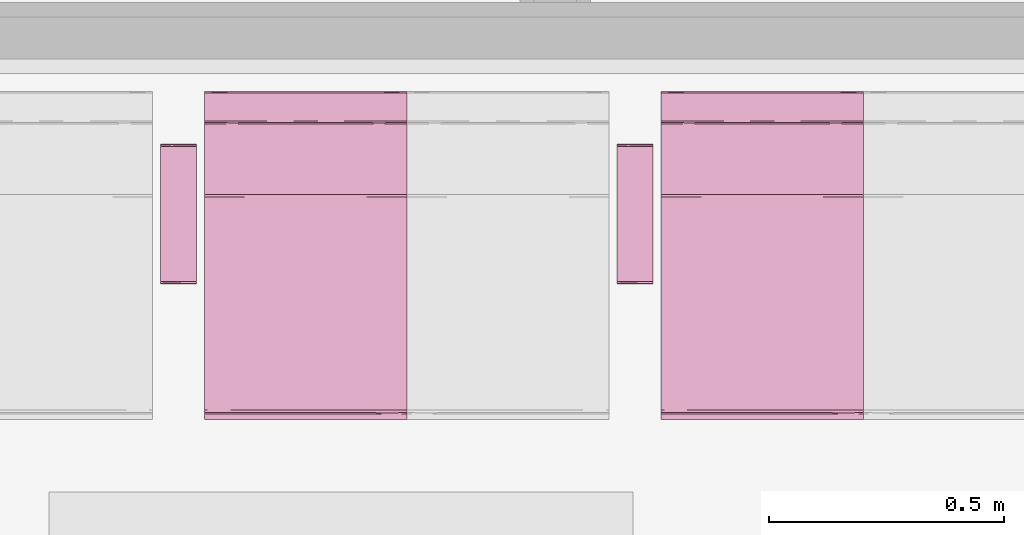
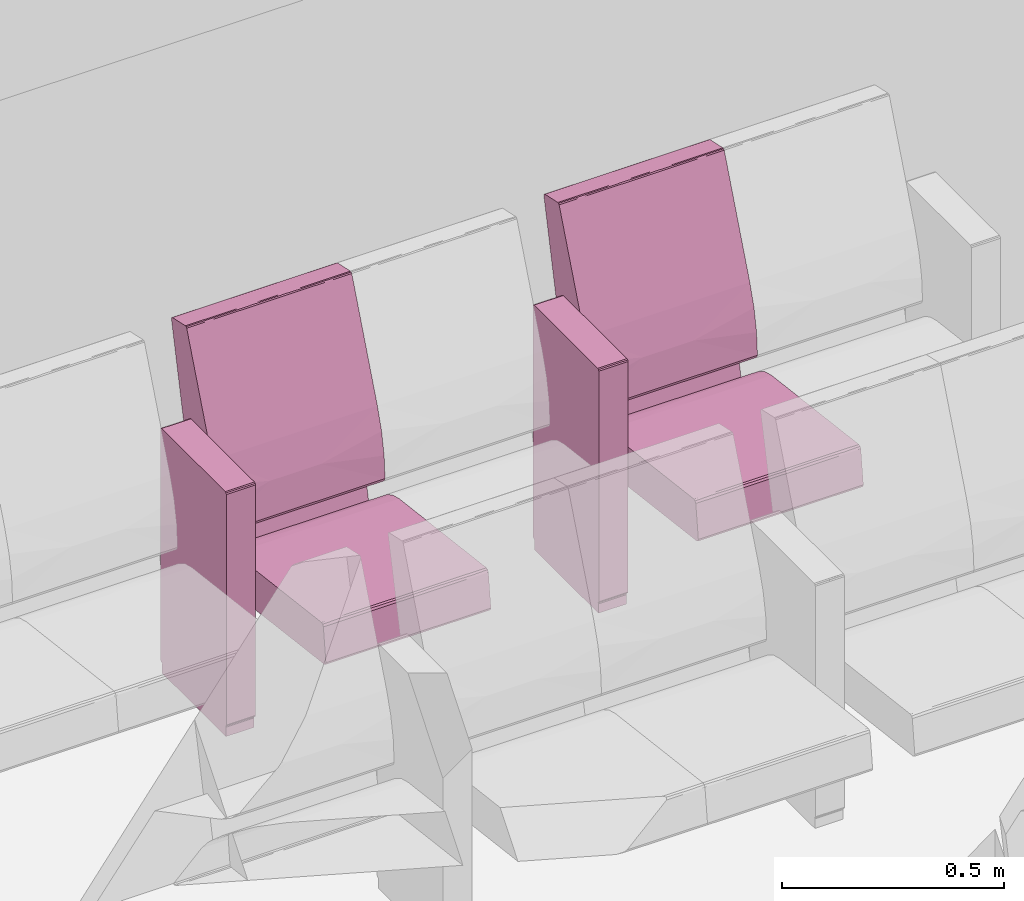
# One storey, part 140 of 155: 2 furnishings.
"""IFC2X3 building model written with IfcOpenShell, lengths in metres."""

from ifc_helpers import new_model, entity, si_unit, converted_unit, derived_unit, direction, frame, origin, place, context, subcontext, project, spatial, faceted_brep, source, transform, mapped, material, material_list, type_object, type_shapes, element, save


model = new_model("IFC2X3")

# Units and contexts
model_context = context("Model", 3, precision=1e-05, world=origin(), true_north=direction((6.12303176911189e-17, 1.0)))
body_context = subcontext(model_context, "Body", "Model", "MODEL_VIEW")
ifc_project = project(units=[si_unit("LENGTHUNIT", "METRE"), si_unit("AREAUNIT", "SQUARE_METRE"), si_unit("VOLUMEUNIT", "CUBIC_METRE"), converted_unit("PLANEANGLEUNIT", "DEGREE", entity("IfcRatioMeasure", 0.0174532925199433), si_unit("PLANEANGLEUNIT", "RADIAN"), dimensions=[0, 0, 0, 0, 0, 0, 0]), si_unit("MASSUNIT", "GRAM", prefix="KILO"), derived_unit("MASSDENSITYUNIT", [(si_unit("MASSUNIT", "GRAM", prefix="KILO"), 1), (si_unit("LENGTHUNIT", "METRE"), -3)]), si_unit("TIMEUNIT", "SECOND"), si_unit("FREQUENCYUNIT", "HERTZ"), si_unit("THERMODYNAMICTEMPERATUREUNIT", "DEGREE_CELSIUS"), derived_unit("THERMALTRANSMITTANCEUNIT", [(si_unit("MASSUNIT", "GRAM", prefix="KILO"), 1), (si_unit("THERMODYNAMICTEMPERATUREUNIT", "KELVIN"), -1), (si_unit("TIMEUNIT", "SECOND"), -3)]), derived_unit("VOLUMETRICFLOWRATEUNIT", [(si_unit("LENGTHUNIT", "METRE"), 3), (si_unit("TIMEUNIT", "SECOND"), -1)]), si_unit("ELECTRICCURRENTUNIT", "AMPERE"), si_unit("ELECTRICVOLTAGEUNIT", "VOLT"), si_unit("POWERUNIT", "WATT"), si_unit("FORCEUNIT", "NEWTON", prefix="KILO"), si_unit("ILLUMINANCEUNIT", "LUX"), si_unit("LUMINOUSFLUXUNIT", "LUMEN"), si_unit("LUMINOUSINTENSITYUNIT", "CANDELA"), derived_unit("USERDEFINED", [(si_unit("MASSUNIT", "GRAM", prefix="KILO"), -1), (si_unit("LENGTHUNIT", "METRE"), -2), (si_unit("TIMEUNIT", "SECOND"), 3), (si_unit("LUMINOUSFLUXUNIT", "LUMEN"), 1)]), derived_unit("LINEARVELOCITYUNIT", [(si_unit("LENGTHUNIT", "METRE"), 1), (si_unit("TIMEUNIT", "SECOND"), -1)]), si_unit("PRESSUREUNIT", "PASCAL"), derived_unit("USERDEFINED", [(si_unit("LENGTHUNIT", "METRE"), -2), (si_unit("MASSUNIT", "GRAM", prefix="KILO"), 1), (si_unit("TIMEUNIT", "SECOND"), -2)])], contexts=[model_context])

# Site, building, storey, space
site_placement = place(None, frame((26.9889013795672, -17.5624287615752, 0.0)))
site = spatial("IfcSite", under=ifc_project, at=site_placement, Name="Default", CompositionType="ELEMENT")
building_placement = place(site_placement, origin())
building = spatial("IfcBuilding", under=site, at=building_placement, Name="C. C. L. Monsenhor Antônio Sampaio", CompositionType="ELEMENT")
storey_placement = place(building_placement, frame((0.0, 0.0, 1.19999999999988)))
storey = spatial("IfcBuildingStorey", under=building, at=storey_placement, Name="Nível 1.2", CompositionType="ELEMENT", Elevation=1.19999999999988)
space_placement = place(storey_placement, origin())
space = spatial("IfcSpace", under=storey, at=space_placement, Name="94", CompositionType="ELEMENT", InteriorOrExteriorSpace="INTERNAL")

# Furnishings
ifc_material_1 = material(Name="V9 - V9 - Ecopelle_672_658")
ifc_material_2 = material(Name="V9 - V9 - RAL_9006_Grigio")
ifc_material_list_1 = material_list([ifc_material_1, ifc_material_2])
ifc_material_list_2 = material_list([ifc_material_1, ifc_material_2])
furniture_type = type_object("IfcFurnitureType", Name="Cadeira auditório", material=ifc_material_list_2)
shared_shape = source(origin(), body_context, "Body", "Brep", [
    faceted_brep([(0.405536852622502, 0.156348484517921, 0.339809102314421), (0.410560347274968, 0.131924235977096, 0.34246450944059), (0.405536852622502, 0.1075, 0.339809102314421), (0.405536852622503, 0.0537499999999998, 0.339809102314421), (0.410597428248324, 0.084060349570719, 0.342506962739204), (0.41079981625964, 0.0179166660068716, 0.342749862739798), (0.405536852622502, 0.215, 0.339809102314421), (0.410248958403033, 0.173608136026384, 0.342130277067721), (0.412515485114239, 0.185674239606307, 0.348529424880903), (0.412515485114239, 0.143333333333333, 0.348529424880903), (0.410560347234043, -0.131924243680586, 0.342464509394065), (0.405536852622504, -0.156348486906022, 0.33980910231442), (0.405536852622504, -0.1075, 0.33980910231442), (0.405536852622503, 0.0, 0.33980910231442), (0.41251548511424, 0.0, 0.348529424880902), (0.411170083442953, -0.0341365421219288, 0.343251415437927), (0.41059742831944, -0.0840603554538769, 0.342506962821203), (0.41251548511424, -0.143333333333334, 0.348529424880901), (0.412515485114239, 0.0358333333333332, 0.348529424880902), (0.412515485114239, 0.0716666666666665, 0.348529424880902), (0.405536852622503, -0.0537500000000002, 0.33980910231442), (0.412515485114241, -0.185674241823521, 0.348529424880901), (0.410799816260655, -0.215, 0.342749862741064), (0.410248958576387, -0.173608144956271, 0.342130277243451), (0.410799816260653, 0.215, 0.342749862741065), (0.412515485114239, 0.215, 0.348529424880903), (0.412515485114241, -0.215, 0.348529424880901), (0.41251548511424, -0.0716666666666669, 0.348529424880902), (0.405536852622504, -0.215, 0.33980910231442), (-0.0557900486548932, -0.215, 0.28268145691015), (-0.055790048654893, -0.168631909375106, 0.282681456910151), (-0.0557900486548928, -0.138065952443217, 0.282681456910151), (-0.0557900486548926, -0.107499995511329, 0.282681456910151), (-0.0557900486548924, -0.0806249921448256, 0.282681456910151), (-0.0557900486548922, -0.0537499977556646, 0.282681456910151), (-0.0557900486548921, -0.0268750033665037, 0.282681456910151), (-0.0557900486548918, 0.0, 0.28268145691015), (-0.0557900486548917, 0.0268749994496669, 0.282681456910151), (-0.0557900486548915, 0.0537499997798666, 0.282681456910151), (-0.0557900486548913, 0.0806250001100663, 0.282681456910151), (-0.0557900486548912, 0.107499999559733, 0.282681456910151), (-0.055790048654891, 0.134374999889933, 0.282681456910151), (-0.0557900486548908, 0.161250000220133, 0.282681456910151), (-0.0557900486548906, 0.1881249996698, 0.282681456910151), (-0.0557900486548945, 0.215, 0.28268145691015), (-0.0594787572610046, -0.0152829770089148, 0.283700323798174), (-0.0613666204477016, 0.0, 0.287029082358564), (-0.0594787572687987, 0.0179017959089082, 0.283700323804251), (-0.0613666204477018, 0.191815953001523, 0.287029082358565), (-0.0613666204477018, 0.215, 0.287029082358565), (-0.0594787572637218, 0.215, 0.283700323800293), (-0.0593340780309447, 0.0671874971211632, 0.283591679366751), (-0.0613666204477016, 0.030565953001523, 0.287029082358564), (-0.0594787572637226, -0.215, 0.283700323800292), (-0.0593337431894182, -0.184174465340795, 0.283591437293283), (-0.0613666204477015, -0.122263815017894, 0.287029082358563), (-0.0613666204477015, -0.0916978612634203, 0.287029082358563), (-0.0613666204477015, -0.0611319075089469, 0.287029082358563), (-0.0593023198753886, -0.0940625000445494, 0.283568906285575), (-0.059382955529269, 0.118123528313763, 0.28362747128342), (-0.0613666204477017, 0.122263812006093, 0.287029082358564), (-0.0597338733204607, 0.147039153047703, 0.283913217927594), (-0.0613666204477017, 0.168631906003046, 0.287029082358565), (-0.0592501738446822, 0.180223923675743, 0.283532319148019), (-0.0588783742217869, 0.0926899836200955, 0.283298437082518), (-0.0613666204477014, -0.215, 0.287029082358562), (-0.0613666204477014, -0.168631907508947, 0.287029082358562), (-0.0592576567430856, -0.123736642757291, 0.283537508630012), (-0.0594787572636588, -0.153348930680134, 0.283700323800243), (-0.0613666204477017, 0.0916978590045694, 0.287029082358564), (-0.0613666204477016, -0.0305659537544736, 0.287029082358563), (-0.059645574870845, -0.045848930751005, 0.283836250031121), (-0.0613666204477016, 0.0611319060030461, 0.287029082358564), (-0.069340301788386, -0.215, 0.351419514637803), (-0.0693403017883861, -0.143333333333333, 0.351419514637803), (-0.0693403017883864, -0.0716666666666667, 0.351419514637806), (-0.0693403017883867, 0.0, 0.351419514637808), (-0.069340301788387, 0.0716666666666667, 0.351419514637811), (-0.0693403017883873, 0.143333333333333, 0.351419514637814), (-0.0693403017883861, 0.215, 0.351419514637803), (-0.0597085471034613, 0.0, 0.37476954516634), (-0.0645543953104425, 0.112272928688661, 0.369803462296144), (-0.0653387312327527, 0.0126787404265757, 0.368680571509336), (-0.0681665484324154, -0.0888707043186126, 0.36292533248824), (-0.0655136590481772, -0.10440004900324, 0.368411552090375), (-0.0694879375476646, 0.0590582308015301, 0.356377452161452), (-0.0695056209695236, -0.125492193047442, 0.356093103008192), (-0.0597085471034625, -0.110316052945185, 0.374769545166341), (-0.0690003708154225, 0.132942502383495, 0.359900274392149), (-0.0672851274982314, 0.108066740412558, 0.365148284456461), (-0.0676206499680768, 0.215, 0.364371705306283), (-0.0686241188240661, 0.215, 0.356813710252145), (-0.0686241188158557, -0.214999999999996, 0.356813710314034), (-0.0686999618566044, 0.0358333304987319, 0.36116674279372), (-0.0694502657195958, -0.0358333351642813, 0.356863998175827), (-0.0676206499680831, -0.214999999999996, 0.364371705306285), (-0.0636645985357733, -0.214999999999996, 0.369570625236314), (-0.0597085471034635, -0.214999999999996, 0.374769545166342), (-0.0597085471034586, 0.215, 0.374769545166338), (-0.0636645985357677, 0.215, 0.36957062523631), (-0.0597085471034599, 0.110316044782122, 0.374769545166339), (-0.0324117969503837, 0.215, 0.390639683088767), (-0.0324117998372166, 0.0436847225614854, 0.39063968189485), (-0.0018793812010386, 0.215, 0.398686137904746), (-0.041847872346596, -0.0856576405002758, 0.386239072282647), (-0.0324117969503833, -0.215, 0.390639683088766), (-0.00187938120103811, -0.215, 0.398686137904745), (-0.00187938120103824, -0.102488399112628, 0.398686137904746), (-0.0219042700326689, -0.0570631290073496, 0.394412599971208), (-0.00187938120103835, 0.0, 0.398686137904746), (0.392202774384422, 0.215, 0.447486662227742), (0.392202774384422, -0.215, 0.447486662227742), (0.392202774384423, -0.156349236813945, 0.447486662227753), (0.392202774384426, -0.107499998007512, 0.447486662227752), (0.392202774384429, -0.0537500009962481, 0.44748666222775), (0.392202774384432, 0.0, 0.447486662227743), (0.392202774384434, 0.0537499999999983, 0.447486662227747), (0.392202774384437, 0.107499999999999, 0.447486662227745), (0.392202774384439, 0.156349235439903, 0.447486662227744), (0.398104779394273, -0.131924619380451, 0.445856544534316), (0.401125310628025, -0.0976984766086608, 0.440530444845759), (0.397860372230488, -0.0827732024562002, 0.446039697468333), (0.401125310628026, -0.215000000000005, 0.440530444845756), (0.401125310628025, -0.156349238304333, 0.440530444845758), (0.397373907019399, -0.173462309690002, 0.446363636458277), (0.398104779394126, -0.215000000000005, 0.445856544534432), (0.397860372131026, 0.0827731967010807, 0.446039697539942), (0.398104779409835, 0.131924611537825, 0.445856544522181), (0.398104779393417, -0.0237489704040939, 0.445856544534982), (0.398104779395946, 0.0268749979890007, 0.445856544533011), (0.401125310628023, 0.0488492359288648, 0.440530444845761), (0.401125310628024, -0.0488492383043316, 0.440530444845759), (0.398774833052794, 0.173462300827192, 0.445271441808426), (0.401125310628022, 0.097698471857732, 0.440530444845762), (0.401125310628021, 0.215, 0.440530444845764), (0.39810477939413, 0.215, 0.445856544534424), (0.401125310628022, 0.156349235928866, 0.440530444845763), (0.401125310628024, 0.0, 0.44053044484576)], [[[0, 1, 2]], [[3, 4, 5]], [[6, 7, 0]], [[7, 8, 9]], [[10, 11, 12]], [[3, 5, 13]], [[14, 15, 5]], [[16, 17, 10]], [[9, 1, 7]], [[18, 5, 4]], [[4, 9, 19, 18]], [[9, 4, 1]], [[2, 1, 4]], [[13, 15, 20]], [[21, 22, 23]], [[5, 18, 14]], [[24, 25, 8]], [[22, 21, 26]], [[24, 7, 6]], [[23, 11, 10]], [[20, 15, 16]], [[3, 2, 4]], [[14, 27, 15]], [[5, 15, 13]], [[27, 17, 16]], [[10, 12, 16]], [[21, 23, 17]], [[20, 16, 12]], [[15, 27, 16]], [[7, 1, 0]], [[28, 11, 23]], [[8, 7, 24]], [[23, 10, 17]], [[28, 23, 22]], [[28, 29, 30, 31, 32, 33, 34, 35, 36, 37, 38, 39, 40, 41, 42, 43, 44, 6, 0, 2, 3, 13, 20, 12, 11]], [[45, 46, 47]], [[48, 49, 50]], [[51, 47, 52]], [[29, 53, 54]], [[55, 56, 57, 58]], [[59, 60, 61]], [[61, 62, 63]], [[51, 64, 39]], [[65, 66, 54]], [[31, 67, 32]], [[45, 47, 38, 37, 36, 35]], [[68, 31, 30]], [[43, 50, 44]], [[63, 42, 61]], [[48, 50, 63]], [[64, 69, 59]], [[68, 54, 66]], [[63, 62, 48]], [[50, 43, 63]], [[67, 55, 58]], [[61, 42, 41]], [[45, 70, 46]], [[55, 68, 66]], [[71, 33, 58]], [[71, 57, 70]], [[41, 40, 59]], [[60, 62, 61]], [[71, 35, 34, 33]], [[35, 71, 45]], [[47, 46, 52]], [[45, 71, 70]], [[58, 57, 71]], [[32, 58, 33]], [[31, 68, 67]], [[54, 68, 30]], [[29, 54, 30]], [[54, 53, 65]], [[55, 67, 68]], [[32, 67, 58]], [[51, 52, 72, 69]], [[43, 42, 63]], [[41, 59, 61]], [[47, 51, 38]], [[40, 39, 64]], [[38, 51, 39]], [[69, 60, 59]], [[69, 64, 51]], [[40, 64, 59]], [[65, 73, 74, 75, 76, 77, 78, 79, 49, 48, 62, 60, 69, 72, 52, 46, 70, 57, 56, 55, 66]], [[80, 81, 82]], [[82, 83, 84]], [[78, 77, 76, 85]], [[86, 75, 74]], [[84, 80, 82]], [[80, 84, 87]], [[88, 89, 90]], [[91, 79, 78]], [[74, 73, 92]], [[85, 88, 91]], [[81, 89, 82]], [[93, 94, 83]], [[94, 86, 83]], [[85, 76, 94]], [[92, 86, 74]], [[85, 94, 93]], [[83, 92, 95]], [[75, 94, 76]], [[93, 83, 82]], [[95, 96, 84]], [[88, 85, 93]], [[96, 97, 87]], [[98, 99, 100]], [[78, 85, 91]], [[89, 88, 93]], [[90, 91, 88]], [[93, 82, 89]], [[81, 99, 89]], [[99, 90, 89]], [[100, 81, 80]], [[100, 99, 81]], [[83, 86, 92]], [[75, 86, 94]], [[95, 84, 83]], [[87, 84, 96]], [[101, 102, 103]], [[104, 80, 87, 97]], [[105, 106, 107]], [[107, 108, 105]], [[103, 102, 109]], [[104, 102, 80]], [[104, 108, 102]], [[98, 102, 101]], [[105, 104, 97]], [[105, 108, 104]], [[102, 98, 100, 80]], [[109, 108, 107]], [[109, 102, 108]], [[110, 103, 109, 107, 106, 111, 112, 113, 114, 115, 116, 117, 118]], [[119, 120, 121]], [[122, 123, 124]], [[111, 125, 124]], [[117, 116, 126]], [[124, 119, 112]], [[113, 112, 119]], [[127, 118, 117]], [[115, 114, 128, 129, 116]], [[129, 130, 126]], [[121, 131, 128]], [[127, 132, 118]], [[110, 118, 132]], [[127, 126, 133]], [[119, 124, 123]], [[134, 135, 132]], [[136, 132, 127]], [[120, 119, 123]], [[133, 136, 127]], [[137, 130, 129, 128, 131]], [[126, 127, 117]], [[130, 133, 126]], [[113, 119, 121]], [[129, 126, 116]], [[128, 114, 121]], [[114, 113, 121]], [[131, 121, 120]], [[111, 124, 112]], [[124, 125, 122]], [[134, 132, 136]], [[132, 135, 110]], [[19, 9, 8, 25, 134, 136, 133, 130, 137, 131, 120, 123, 122, 26, 21, 17, 27, 14, 18]], [[65, 53, 29, 28, 22, 26, 122, 125, 111, 106, 105, 97, 96, 95, 92, 73]], [[98, 101, 103, 110, 135, 134, 25, 24, 6, 44, 50, 49, 79, 91, 90, 99]]]),
    faceted_brep([(0.123144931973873, -0.283972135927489, 0.673627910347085), (0.12334838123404, -0.259944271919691, 0.6734355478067), (0.119812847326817, -0.27, 0.674900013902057), (0.124812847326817, -0.27, 0.669900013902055), (0.12334838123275, -0.232, 0.673435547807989), (0.119812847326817, -0.232, 0.674900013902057), (0.124812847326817, -0.308, 0.669900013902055), (0.119812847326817, -0.308, 0.674900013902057), (0.124812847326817, -0.249888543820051, 0.669900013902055), (0.124812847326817, -0.232, 0.669900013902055), (0.12334838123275, -0.308, 0.673435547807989), (0.124812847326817, -0.27, 0.035), (0.124812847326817, -0.232, 0.035), (0.124812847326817, -0.308, 0.0350000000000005), (0.123540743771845, -0.283972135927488, 0.0316679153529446), (0.12334838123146, -0.25994427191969, 0.0314644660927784), (0.119812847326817, -0.27, 0.0300000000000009), (0.12334838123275, -0.232, 0.0314644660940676), (0.119812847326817, -0.308, 0.0300000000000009), (0.119812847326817, -0.249888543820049, 0.030000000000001), (0.119812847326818, -0.232, 0.030000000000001), (0.123348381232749, -0.308, 0.0314644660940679), (-0.167179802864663, -0.308, 0.0300000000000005), (-0.167179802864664, -0.27, 0.0300000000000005), (-0.167179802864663, -0.232, 0.0300000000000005), (-0.17051188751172, -0.283972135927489, 0.0312721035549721), (-0.170715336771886, -0.25994427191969, 0.0314644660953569), (-0.172179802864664, -0.27, 0.0350000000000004), (-0.170715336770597, -0.232, 0.0314644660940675), (-0.172179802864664, -0.308, 0.0350000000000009), (-0.172179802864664, -0.24988854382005, 0.0350000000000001), (-0.172179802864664, -0.232, 0.0349999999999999), (-0.170715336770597, -0.308, 0.0314644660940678), (-0.172179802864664, -0.308, 0.669900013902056), (-0.172179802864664, -0.27, 0.669900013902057), (-0.172179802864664, -0.232, 0.669900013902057), (-0.170907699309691, -0.283972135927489, 0.673232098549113), (-0.170715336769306, -0.259944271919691, 0.673435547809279), (-0.167179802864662, -0.27, 0.674900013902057), (-0.170715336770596, -0.232, 0.67343554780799), (-0.167179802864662, -0.308, 0.674900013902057), (-0.167179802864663, -0.249888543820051, 0.674900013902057), (-0.167179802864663, -0.232, 0.674900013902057), (-0.170715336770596, -0.308, 0.67343554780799)], [[[0, 1, 2]], [[1, 0, 3]], [[1, 4, 5, 2]], [[6, 3, 0]], [[7, 0, 2]], [[4, 1, 3, 8, 9]], [[10, 0, 7]], [[0, 10, 6]], [[11, 12, 9, 8, 3, 6, 13]], [[14, 15, 11]], [[15, 14, 16]], [[15, 17, 12, 11]], [[18, 16, 14]], [[13, 14, 11]], [[17, 15, 16, 19, 20]], [[21, 14, 13]], [[14, 21, 18]], [[18, 22, 23, 24, 20, 19, 16]], [[25, 26, 23]], [[26, 25, 27]], [[26, 28, 24, 23]], [[29, 27, 25]], [[22, 25, 23]], [[28, 26, 27, 30, 31]], [[32, 25, 22]], [[25, 32, 29]], [[27, 29, 33, 34, 35, 31, 30]], [[36, 37, 34]], [[37, 36, 38]], [[37, 39, 35, 34]], [[40, 38, 36]], [[33, 36, 34]], [[39, 37, 38, 41, 42]], [[43, 36, 33]], [[36, 43, 40]], [[40, 7, 2, 5, 42, 41, 38]], [[35, 39, 42, 5, 4, 9, 12, 17, 20, 24, 28, 31]], [[29, 32, 22, 18, 21, 13, 6, 10, 7, 40, 43, 33]]]),
    faceted_brep([(-0.0695672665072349, 0.215, 0.476508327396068), (-0.074405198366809, 0.0524423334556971, 0.506888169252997), (-0.0655618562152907, 0.215, 0.415143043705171), (-0.0744051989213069, -0.0780075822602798, 0.506888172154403), (-0.0655618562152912, 0.0, 0.415143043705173), (-0.0655618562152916, -0.215, 0.415143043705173), (-0.0655618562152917, -0.1075, 0.415143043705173), (-0.0655618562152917, 0.1075, 0.415143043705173), (-0.0695672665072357, -0.215, 0.476508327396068), (-0.081111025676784, -0.215, 0.536911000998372), (-0.0811110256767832, 0.215, 0.536911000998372), (-0.100016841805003, 0.215, 0.595428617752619), (-0.100016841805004, 0.0, 0.595428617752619), (-0.100016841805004, -0.215, 0.595428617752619), (-0.0698317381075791, 0.0358333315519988, 0.406528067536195), (-0.0792851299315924, 0.0, 0.404772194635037), (-0.0792851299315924, 0.0716666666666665, 0.404772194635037), (-0.0792851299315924, -0.215, 0.404772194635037), (-0.0792851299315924, -0.143333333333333, 0.404772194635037), (-0.0698317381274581, -0.215, 0.406528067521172), (-0.0792851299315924, 0.143333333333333, 0.404772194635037), (-0.0792851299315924, 0.215, 0.404772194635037), (-0.0698317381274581, 0.215, 0.406528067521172), (-0.0694171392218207, 0.140338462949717, 0.406857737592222), (-0.0708115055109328, -0.0356393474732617, 0.405868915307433), (-0.0703502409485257, -0.107500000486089, 0.406159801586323), (-0.0792851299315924, -0.0716666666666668, 0.404772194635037), (-0.163837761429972, -0.215, 0.420611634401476), (-0.163837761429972, 0.215, 0.420611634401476), (-0.123612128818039, 0.215, 0.235917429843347), (-0.123612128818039, -0.215, 0.235917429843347), (-0.142059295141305, -0.215, 0.231899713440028), (-0.142059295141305, 0.215, 0.231899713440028), (-0.235388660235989, -0.215, 0.652619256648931), (-0.235388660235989, 0.215, 0.652619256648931), (-0.28428001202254, -0.215, 0.873004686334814), (-0.284280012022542, -0.191295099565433, 0.873004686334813), (-0.284280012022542, -0.161249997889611, 0.873004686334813), (-0.284280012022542, -0.134374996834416, 0.873004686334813), (-0.284280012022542, -0.107499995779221, 0.873004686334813), (-0.284280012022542, -0.0806249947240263, 0.873004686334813), (-0.284280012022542, -0.0537499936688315, 0.873004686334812), (-0.284280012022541, -0.0268749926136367, 0.873004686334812), (-0.28428001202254, 0.0, 0.873004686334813), (-0.284280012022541, 0.0268749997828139, 0.873004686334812), (-0.284280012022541, 0.0537500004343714, 0.873004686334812), (-0.284280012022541, 0.0806250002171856, 0.873004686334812), (-0.284280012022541, 0.1075, 0.873004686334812), (-0.284280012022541, 0.134374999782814, 0.873004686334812), (-0.28428001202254, 0.161249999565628, 0.873004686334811), (-0.28428001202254, 0.191295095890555, 0.873004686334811), (-0.28428001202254, 0.215, 0.873004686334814), (-0.283746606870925, 0.0872244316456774, 0.876674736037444), (-0.283504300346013, 0.0569644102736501, 0.877068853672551), (-0.283567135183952, -0.15546176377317, 0.876973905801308), (-0.283641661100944, -0.12093750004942, 0.87685511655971), (-0.283567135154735, 0.155461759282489, 0.876973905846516), (-0.28330409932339, 0.185293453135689, 0.877344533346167), (-0.283641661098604, 0.0179166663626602, 0.876855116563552), (-0.283641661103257, -0.0136463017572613, 0.876855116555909), (-0.280514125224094, -0.0358333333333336, 0.879190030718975), (-0.280514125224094, 0.0, 0.879190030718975), (-0.280514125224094, 0.0358333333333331, 0.879190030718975), (-0.280514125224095, -0.143333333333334, 0.879190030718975), (-0.280514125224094, -0.1075, 0.879190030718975), (-0.280514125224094, -0.071666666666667, 0.879190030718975), (-0.283746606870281, -0.0872244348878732, 0.876674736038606), (-0.280514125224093, 0.0716666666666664, 0.879190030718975), (-0.280514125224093, 0.1075, 0.879190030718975), (-0.283641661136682, 0.120937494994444, 0.876855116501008), (-0.280514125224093, 0.143333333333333, 0.879190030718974), (-0.283641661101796, 0.215, 0.876855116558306), (-0.283641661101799, -0.215, 0.876855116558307), (-0.283304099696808, -0.18529345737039, 0.877344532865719), (-0.280514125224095, -0.167590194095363, 0.879190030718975), (-0.280514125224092, 0.215, 0.879190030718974), (-0.280514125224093, 0.167590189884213, 0.879190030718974), (-0.280514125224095, -0.215, 0.879190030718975), (-0.283504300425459, -0.0569644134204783, 0.8770688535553), (-0.22111253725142, 0.215, 0.892176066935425), (-0.22111253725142, -0.215, 0.892176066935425), (-0.221112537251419, -0.191815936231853, 0.892176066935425), (-0.221112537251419, -0.161250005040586, 0.892176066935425), (-0.221112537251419, -0.134375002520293, 0.892176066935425), (-0.221112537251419, -0.1075, 0.892176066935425), (-0.221112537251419, -0.080624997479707, 0.892176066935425), (-0.221112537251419, -0.0537499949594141, 0.892176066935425), (-0.221112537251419, -0.0268750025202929, 0.892176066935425), (-0.221112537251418, 0.0, 0.892176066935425), (-0.221112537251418, 0.0268750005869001, 0.892176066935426), (-0.221112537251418, 0.05375000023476, 0.892176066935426), (-0.221112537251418, 0.0806249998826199, 0.892176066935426), (-0.221112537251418, 0.10749999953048, 0.892176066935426), (-0.221112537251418, 0.13437499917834, 0.892176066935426), (-0.221112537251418, 0.16124999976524, 0.892176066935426), (-0.221112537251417, 0.19181594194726, 0.892176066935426), (-0.215419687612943, 0.0, 0.889191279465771), (-0.215419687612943, 0.0358333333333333, 0.889191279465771), (-0.217722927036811, 0.0162353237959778, 0.891719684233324), (-0.217722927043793, -0.0134375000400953, 0.891719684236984), (-0.215419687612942, -0.191815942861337, 0.889191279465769), (-0.215419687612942, -0.168631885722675, 0.889191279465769), (-0.217722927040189, -0.182482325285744, 0.891719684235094), (-0.217722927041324, -0.215, 0.891719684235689), (-0.215419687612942, -0.215, 0.889191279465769), (-0.215419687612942, -0.1075, 0.88919127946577), (-0.215419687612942, -0.0716666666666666, 0.88919127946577), (-0.217722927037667, -0.0912646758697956, 0.891719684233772), (-0.217722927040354, -0.120937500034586, 0.89171968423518), (-0.215419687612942, -0.143333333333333, 0.88919127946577), (-0.215419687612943, 0.191815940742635, 0.889191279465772), (-0.215419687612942, 0.215, 0.889191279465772), (-0.217722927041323, 0.215, 0.89171968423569), (-0.217722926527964, 0.190103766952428, 0.891719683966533), (-0.217722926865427, 0.0912646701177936, 0.891719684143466), (-0.217816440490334, 0.0647800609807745, 0.891767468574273), (-0.215419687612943, 0.0716666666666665, 0.889191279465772), (-0.217816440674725, -0.0647800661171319, 0.891767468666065), (-0.2179983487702, -0.0390825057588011, 0.891853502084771), (-0.217558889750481, -0.155982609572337, 0.891629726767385), (-0.217722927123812, 0.120937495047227, 0.891719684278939), (-0.215419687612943, 0.16863188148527, 0.889191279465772), (-0.215419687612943, 0.143333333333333, 0.889191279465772), (-0.217558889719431, 0.15598260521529, 0.891629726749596), (-0.215419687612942, -0.0358333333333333, 0.889191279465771), (-0.215419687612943, 0.1075, 0.889191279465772), (-0.218257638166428, 0.0404491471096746, 0.891961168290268)], [[[0, 1, 2]], [[1, 3, 4]], [[3, 5, 6, 4]], [[1, 4, 7, 2]], [[5, 3, 8]], [[8, 3, 9]], [[0, 10, 1]], [[11, 12, 1]], [[3, 13, 9]], [[3, 12, 13]], [[11, 1, 10]], [[3, 1, 12]], [[14, 15, 16]], [[17, 18, 19]], [[20, 21, 22]], [[2, 23, 22]], [[14, 7, 4]], [[14, 24, 15]], [[6, 25, 24]], [[22, 23, 20]], [[14, 23, 7]], [[19, 6, 5]], [[4, 24, 14]], [[16, 23, 14]], [[16, 20, 23]], [[26, 25, 18]], [[25, 19, 18]], [[15, 24, 26]], [[23, 2, 7]], [[19, 25, 6]], [[26, 24, 25]], [[6, 24, 4]], [[15, 26, 18, 17, 27, 28, 21, 20, 16]], [[29, 28, 27, 30]], [[30, 31, 32, 29]], [[32, 31, 33, 34]], [[34, 33, 35, 36, 37, 38, 39, 40, 41, 42, 43, 44, 45, 46, 47, 48, 49, 50, 51]], [[52, 46, 53]], [[38, 54, 55]], [[56, 57, 49]], [[58, 59, 60, 61, 62]], [[63, 64, 55]], [[64, 65, 66]], [[52, 67, 68]], [[69, 70, 56]], [[49, 57, 50]], [[38, 55, 39]], [[71, 51, 50]], [[36, 35, 72]], [[59, 58, 44, 43, 42]], [[73, 74, 54]], [[55, 66, 39]], [[75, 57, 76]], [[77, 74, 73]], [[69, 52, 68]], [[37, 36, 73]], [[54, 74, 63]], [[56, 76, 57]], [[36, 72, 73]], [[75, 71, 57]], [[70, 76, 56]], [[52, 69, 47]], [[48, 47, 69]], [[42, 78, 59]], [[66, 55, 64]], [[50, 57, 71]], [[73, 54, 37]], [[77, 73, 72]], [[48, 69, 56]], [[56, 49, 48]], [[69, 68, 70]], [[53, 46, 45, 44]], [[58, 62, 53]], [[53, 44, 58]], [[38, 37, 54]], [[63, 55, 54]], [[78, 66, 65]], [[78, 40, 66]], [[67, 52, 53]], [[78, 42, 41, 40]], [[65, 60, 78]], [[59, 78, 60]], [[52, 47, 46]], [[40, 39, 66]], [[62, 67, 53]], [[79, 75, 76, 70, 68, 67, 62, 61, 60, 65, 64, 63, 74, 77, 80, 81, 82, 83, 84, 85, 86, 87, 88, 89, 90, 91, 92, 93, 94, 95]], [[96, 97, 98, 99]], [[100, 101, 102, 103, 104]], [[105, 106, 107, 108, 109]], [[110, 111, 112]], [[113, 112, 95]], [[114, 115, 116]], [[117, 118, 86]], [[82, 119, 83]], [[102, 82, 81, 80, 103]], [[112, 79, 95]], [[108, 107, 85, 84, 83]], [[88, 87, 99, 98, 89]], [[119, 101, 109]], [[93, 92, 120]], [[117, 85, 107]], [[113, 121, 110]], [[122, 121, 123]], [[113, 94, 123]], [[124, 99, 118]], [[122, 123, 120]], [[108, 119, 109]], [[113, 110, 112]], [[102, 101, 119]], [[119, 108, 83]], [[114, 125, 120]], [[123, 94, 93]], [[93, 120, 123]], [[114, 120, 92]], [[122, 120, 125]], [[117, 107, 106]], [[114, 92, 91]], [[116, 125, 114]], [[115, 91, 90]], [[85, 117, 86]], [[126, 89, 98]], [[117, 106, 124]], [[118, 99, 87]], [[124, 96, 99]], [[97, 116, 115]], [[97, 115, 126]], [[86, 118, 87]], [[124, 118, 117]], [[91, 115, 114]], [[115, 90, 126]], [[89, 126, 90]], [[97, 126, 98]], [[82, 102, 119]], [[94, 113, 95]], [[121, 113, 123]], [[11, 111, 110, 121, 122, 125, 116, 97, 96, 124, 106, 105, 109, 101, 100, 104, 13, 12]], [[27, 17, 19, 5, 8, 9, 13, 104, 103, 80, 77, 72, 35, 33, 31, 30]], [[51, 71, 75, 79, 112, 111, 11, 10, 0, 2, 22, 21, 28, 29, 32, 34]]]),
    faceted_brep([(0.120312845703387, -0.2335, 0.0), (0.120312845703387, -0.2335, 0.0260000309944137), (0.120312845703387, -0.249500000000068, 0.0260000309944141), (0.120312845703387, -0.27, 0.0260000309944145), (0.120312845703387, -0.3065, 0.0260000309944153), (0.120312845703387, -0.3065, 0.0), (-0.167687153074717, -0.3065, 0.0), (-0.167687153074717, -0.2335, 0.0), (-0.167687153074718, -0.27, 0.0260000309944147), (-0.167687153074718, -0.2335, 0.0260000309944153), (-0.167687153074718, -0.3065, 0.0260000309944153), (-0.166521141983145, -0.233500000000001, 0.0288228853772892), (-0.166521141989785, -0.257382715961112, 0.0288228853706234), (-0.163702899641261, -0.233500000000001, 0.0300000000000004), (-0.163702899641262, -0.3065, 0.0300000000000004), (-0.16652114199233, -0.279986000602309, 0.0288228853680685), (-0.166521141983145, -0.3065, 0.0288228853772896), (-0.163702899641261, -0.27, 0.0300000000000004), (0.116297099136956, -0.3065, 0.0300000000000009), (0.116297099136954, -0.269999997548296, 0.0300000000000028), (0.116297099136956, -0.2335, 0.0300000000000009), (0.119033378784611, -0.283124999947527, 0.0289323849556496), (0.1191357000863, -0.2335, 0.0288340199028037), (0.119135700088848, -0.259750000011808, 0.0288340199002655), (0.119135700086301, -0.3065, 0.0288340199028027)], [[[0, 1, 2, 3, 4, 5]], [[0, 5, 6, 7]], [[8, 9, 7, 6, 10]], [[11, 12, 13]], [[14, 15, 16]], [[15, 14, 17, 13, 12]], [[9, 8, 12, 11]], [[16, 15, 10]], [[8, 10, 15, 12]], [[14, 18, 19, 20, 13, 17]], [[21, 4, 3]], [[22, 20, 19, 23]], [[3, 2, 1, 22, 23]], [[24, 21, 18]], [[21, 3, 23]], [[18, 21, 19]], [[21, 24, 4]], [[21, 23, 19]], [[6, 5, 4, 24, 18, 14, 16, 10]], [[7, 9, 11, 13, 20, 22, 1, 0]]]),
])
type_shapes(furniture_type, [shared_shape])
furnishing_1_placement = place(space_placement, frame((-8.06594929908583, -10.4255921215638, 0.0), z_axis=(0.0, 0.0, 1.0), x_axis=(0.0, -1.0, 0.0)))
element("IfcFurnishingElement", 1, at=furnishing_1_placement, inside=space, type_object=furniture_type, material=ifc_material_list_1, Name="cadeira auditório pcd:Cadeira auditório", ObjectType="Cadeira auditório", context=body_context, shape_type="MappedRepresentation", body=[
    mapped(shared_shape, transform((0.0, 0.0, 0.0), scale=1.0)),
])
ifc_material_list_3 = material_list([ifc_material_1, ifc_material_2])
furnishing_2_placement = place(space_placement, frame((-7.09594929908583, -10.4255921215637, 0.0), z_axis=(0.0, 0.0, 1.0), x_axis=(0.0, -1.0, 0.0)))
element("IfcFurnishingElement", 2, at=furnishing_2_placement, inside=space, type_object=furniture_type, material=ifc_material_list_3, Name="cadeira auditório pcd:Cadeira auditório", ObjectType="Cadeira auditório", context=body_context, shape_type="MappedRepresentation", body=[
    mapped(shared_shape, transform((0.0, 0.0, 0.0), scale=1.0)),
])

save(model, "model.ifc")
